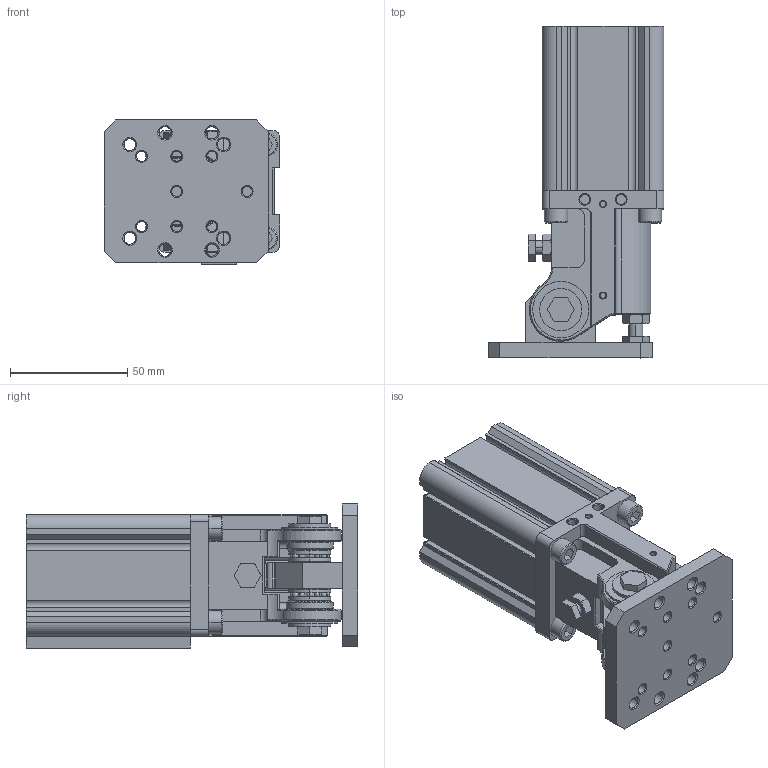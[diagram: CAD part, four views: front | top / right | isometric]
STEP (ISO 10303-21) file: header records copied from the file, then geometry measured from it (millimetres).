
FILE_DESCRIPTION(/* description */ (''),/* implementation_level */ '2;1');
FILE_NAME(/* name */ 'DHR2C-40M30PPV-ZG-ZB.stp',/* time_stamp */ '2025-04-09T11:15:09+08:00',/* author */ (''),/* organization */ (''),/* preprocessor_version */ 'ST-DEVELOPER v15',/* originating_system */ 'SIEMENS PLM Software NX 10.0',/* authorisation */ '');
FILE_SCHEMA (('AP203_CONFIGURATION_CONTROLLED_3D_DESIGN_OF_MECHANICAL_PARTS_AND_ASSEMBLIES_MIM_LF { 1 0 10303 403 2 1 2}'));
Products named in the file (1): Admi00C8E5C0fdqj
Bounding box: 75.03 x 141.56 x 61.51 mm (x, y, z)
Volume: 276044.9 mm3; surface area: 87133.3 mm2
Topology: 53 solids, 53 shells, 939 faces, 2293 edges, 1408 vertices
Faces by surface type: plane 380, cylinder 274, cone 195, sphere 48, bspline 30, torus 12
Full cylindrical faces by diameter (mm): 6 x2, 8 x2, 10 x5, 12 x1, 18 x2, 20 x2, 24 x2, 41.8 x2
Entity records: 44668 total; most frequent: CARTESIAN_POINT 22875, DIRECTION 4592, ORIENTED_EDGE 4308, EDGE_CURVE 2154, AXIS2_PLACEMENT_3D 1708, VERTEX_POINT 1401, LINE 1176, VECTOR 1176
